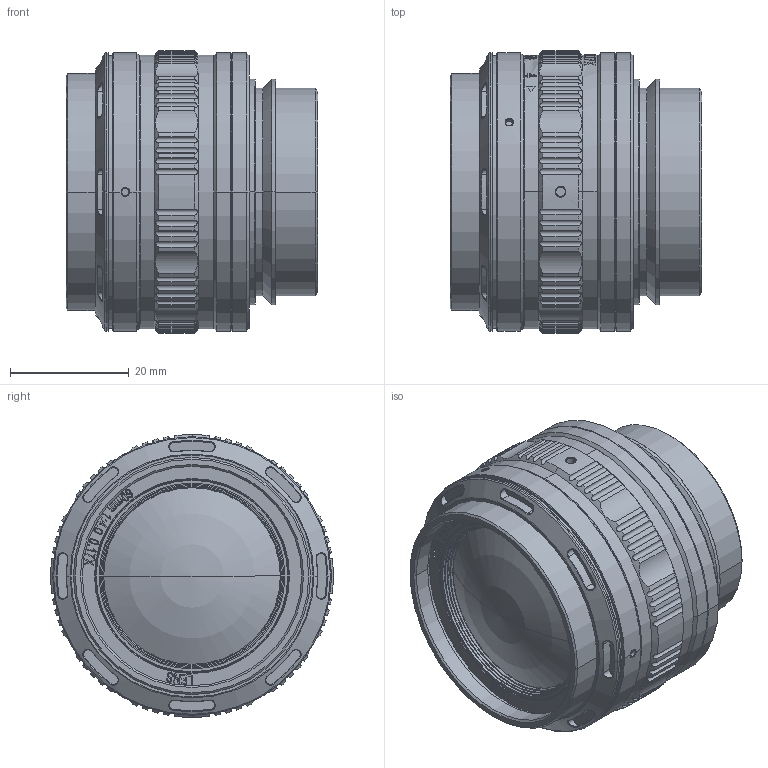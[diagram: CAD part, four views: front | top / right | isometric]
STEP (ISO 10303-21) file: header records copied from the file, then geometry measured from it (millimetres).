
FILE_DESCRIPTION((''),'2;1');
FILE_NAME('VCT60-4_0-0_17X-V1_0','2024-06-17T19:43:36',('admin'),(''),'CREO PARAMETRIC BY PTC INC, 2020354','CREO PARAMETRIC BY PTC INC, 2020354','');
FILE_SCHEMA(('AUTOMOTIVE_DESIGN { 1 0 10303 214 1 1 1 1 }'));
Length unit declared in the file: millimetre
Products named in the file (1): VCT60-4_0-0_17X-V1_0
Bounding box: 42.5 x 47.66 x 47.7 mm (x, y, z)
Volume: 54375.4 mm3; surface area: 14099.8 mm2
Topology: 1 solids, 6 shells, 1241 faces, 3400 edges, 2262 vertices
Faces by surface type: cylinder 338, plane 290, bspline 285, extrusion 180, cone 136, torus 8, sphere 4
Entity records: 50313 total; most frequent: CARTESIAN_POINT 20779, ORIENTED_EDGE 6760, DIRECTION 4875, EDGE_CURVE 3380, VERTEX_POINT 2262, AXIS2_PLACEMENT_3D 1654, VECTOR 1567, LINE 1387
